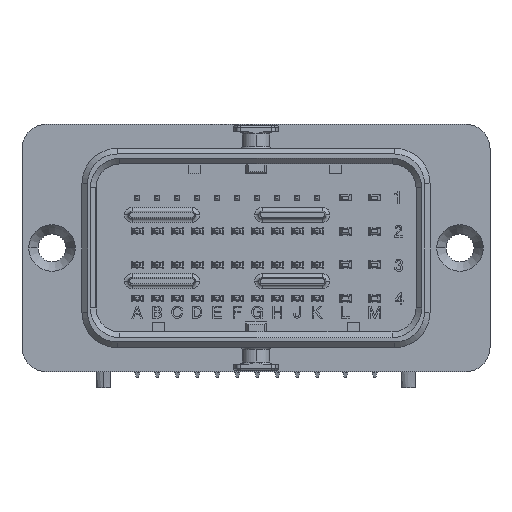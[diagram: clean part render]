
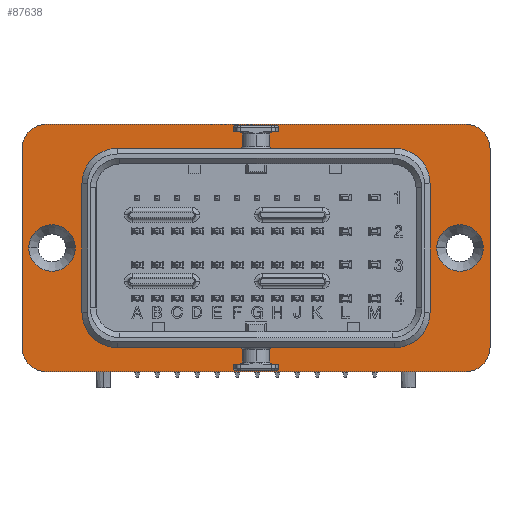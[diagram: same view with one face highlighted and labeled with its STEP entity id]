
A CAD part, left-side view. The second image highlights one B-rep face of the part: STEP entity #87638.
In plain terms, the highlighted planar face has unit normal (-1, 0, 0).
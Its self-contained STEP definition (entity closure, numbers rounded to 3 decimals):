
#85=DIRECTION('',(0.,1.,0.));
#86=VECTOR('',#85,52.5);
#87=CARTESIAN_POINT('',(22.9,57.996,-9.175));
#88=LINE('',#87,#86);
#101=DIRECTION('',(0.,0.,1.));
#102=VECTOR('',#101,24.9);
#103=CARTESIAN_POINT('',(22.9,113.496,-6.175));
#104=LINE('',#103,#102);
#125=DIRECTION('',(0.,0.,-1.));
#126=VECTOR('',#125,24.9);
#127=CARTESIAN_POINT('',(22.9,54.996,18.725));
#128=LINE('',#127,#126);
#137=CARTESIAN_POINT('',(22.9,110.496,-6.175));
#138=DIRECTION('',(-1.,0.,0.));
#139=DIRECTION('',(0.,1.,0.));
#140=AXIS2_PLACEMENT_3D('',#137,#138,#139);
#142=CARTESIAN_POINT('',(22.9,110.496,18.725));
#143=DIRECTION('',(-1.,0.,0.));
#144=DIRECTION('',(0.,0.,1.));
#145=AXIS2_PLACEMENT_3D('',#142,#143,#144);
#147=DIRECTION('',(0.,1.,0.));
#148=VECTOR('',#147,52.5);
#149=CARTESIAN_POINT('',(22.9,57.996,21.725));
#150=LINE('',#149,#148);
#151=CARTESIAN_POINT('',(22.9,57.996,18.725));
#152=DIRECTION('',(-1.,0.,0.));
#153=DIRECTION('',(0.,-1.,0.));
#154=AXIS2_PLACEMENT_3D('',#151,#152,#153);
#156=CARTESIAN_POINT('',(22.9,57.996,-6.175));
#157=DIRECTION('',(-1.,0.,0.));
#158=DIRECTION('',(0.,0.,-1.));
#159=AXIS2_PLACEMENT_3D('',#156,#157,#158);
#161=DIRECTION('',(0.,0.,-1.));
#162=VECTOR('',#161,16.1);
#163=CARTESIAN_POINT('',(22.9,62.496,14.325));
#164=LINE('',#163,#162);
#165=CARTESIAN_POINT('',(22.9,66.896,14.325));
#166=DIRECTION('',(1.,0.,0.));
#167=DIRECTION('',(0.,0.,1.));
#168=AXIS2_PLACEMENT_3D('',#165,#166,#167);
#170=CARTESIAN_POINT('',(22.9,101.596,14.325));
#171=DIRECTION('',(1.,0.,0.));
#172=DIRECTION('',(0.,1.,0.));
#173=AXIS2_PLACEMENT_3D('',#170,#171,#172);
#175=DIRECTION('',(0.,0.,1.));
#176=VECTOR('',#175,16.1);
#177=CARTESIAN_POINT('',(22.9,105.996,-1.775));
#178=LINE('',#177,#176);
#179=CARTESIAN_POINT('',(22.9,101.596,-1.775));
#180=DIRECTION('',(1.,0.,0.));
#181=DIRECTION('',(0.,0.,-1.));
#182=AXIS2_PLACEMENT_3D('',#179,#180,#181);
#184=DIRECTION('',(0.,1.,0.));
#185=VECTOR('',#184,34.7);
#186=CARTESIAN_POINT('',(22.9,66.896,-6.175));
#187=LINE('',#186,#185);
#188=CARTESIAN_POINT('',(22.9,66.896,-1.775));
#189=DIRECTION('',(1.,0.,0.));
#190=DIRECTION('',(0.,-1.,0.));
#191=AXIS2_PLACEMENT_3D('',#188,#189,#190);
#193=CARTESIAN_POINT('',(22.9,109.746,6.275));
#194=DIRECTION('',(1.,0.,0.));
#195=DIRECTION('',(0.,1.,0.));
#196=AXIS2_PLACEMENT_3D('',#193,#194,#195);
#198=CARTESIAN_POINT('',(22.9,109.746,6.275));
#199=DIRECTION('',(1.,0.,0.));
#200=DIRECTION('',(0.,-1.,0.));
#201=AXIS2_PLACEMENT_3D('',#198,#199,#200);
#203=CARTESIAN_POINT('',(22.9,58.746,6.275));
#204=DIRECTION('',(1.,0.,0.));
#205=DIRECTION('',(0.,1.,0.));
#206=AXIS2_PLACEMENT_3D('',#203,#204,#205);
#208=CARTESIAN_POINT('',(22.9,58.746,6.275));
#209=DIRECTION('',(1.,0.,0.));
#210=DIRECTION('',(0.,-1.,0.));
#211=AXIS2_PLACEMENT_3D('',#208,#209,#210);
#225=DIRECTION('',(0.,1.,0.));
#226=VECTOR('',#225,34.7);
#227=CARTESIAN_POINT('',(22.9,66.896,18.725));
#228=LINE('',#227,#226);
#67226=CARTESIAN_POINT('',(22.9,54.996,18.725));
#67227=VERTEX_POINT('',#67226);
#67228=CARTESIAN_POINT('',(22.9,57.996,21.725));
#67229=VERTEX_POINT('',#67228);
#67438=CARTESIAN_POINT('',(22.9,57.996,-9.175));
#67439=CARTESIAN_POINT('',(22.9,110.496,-9.175));
#67440=VERTEX_POINT('',#67438);
#67441=VERTEX_POINT('',#67439);
#67442=CARTESIAN_POINT('',(22.9,54.996,-6.175));
#67443=VERTEX_POINT('',#67442);
#67444=CARTESIAN_POINT('',(22.9,110.496,21.725));
#67445=VERTEX_POINT('',#67444);
#67450=CARTESIAN_POINT('',(22.9,66.896,-6.175));
#67451=VERTEX_POINT('',#67450);
#67452=CARTESIAN_POINT('',(22.9,101.596,-6.175));
#67453=VERTEX_POINT('',#67452);
#67458=CARTESIAN_POINT('',(22.9,113.496,-6.175));
#67459=VERTEX_POINT('',#67458);
#67460=CARTESIAN_POINT('',(22.9,113.496,18.725));
#67461=VERTEX_POINT('',#67460);
#67462=CARTESIAN_POINT('',(22.9,66.896,18.725));
#67463=CARTESIAN_POINT('',(22.9,62.496,14.325));
#67464=VERTEX_POINT('',#67462);
#67465=VERTEX_POINT('',#67463);
#67466=CARTESIAN_POINT('',(22.9,101.596,18.725));
#67467=VERTEX_POINT('',#67466);
#67468=CARTESIAN_POINT('',(22.9,105.996,14.325));
#67469=VERTEX_POINT('',#67468);
#67470=CARTESIAN_POINT('',(22.9,105.996,-1.775));
#67471=VERTEX_POINT('',#67470);
#67472=CARTESIAN_POINT('',(22.9,62.496,-1.775));
#67473=VERTEX_POINT('',#67472);
#67474=CARTESIAN_POINT('',(22.9,106.846,6.275));
#67475=CARTESIAN_POINT('',(22.9,112.646,6.275));
#67476=VERTEX_POINT('',#67474);
#67477=VERTEX_POINT('',#67475);
#67478=CARTESIAN_POINT('',(22.9,55.846,6.275));
#67479=CARTESIAN_POINT('',(22.9,61.646,6.275));
#67480=VERTEX_POINT('',#67478);
#67481=VERTEX_POINT('',#67479);
#87593=CARTESIAN_POINT('',(22.9,139.37,23.201));
#87594=DIRECTION('',(-1.,0.,0.));
#87595=DIRECTION('',(0.,-1.,0.));
#87596=AXIS2_PLACEMENT_3D('',#87593,#87594,#87595);
#87597=PLANE('',#87596);
#87598=ORIENTED_EDGE('',*,*,#87488,.T.);
#87599=ORIENTED_EDGE('',*,*,#87505,.F.);
#87600=ORIENTED_EDGE('',*,*,#87517,.T.);
#87601=ORIENTED_EDGE('',*,*,#87533,.F.);
#87602=ORIENTED_EDGE('',*,*,#87545,.F.);
#87603=ORIENTED_EDGE('',*,*,#87561,.F.);
#87604=ORIENTED_EDGE('',*,*,#87573,.T.);
#87605=ORIENTED_EDGE('',*,*,#87588,.F.);
#87606=EDGE_LOOP('',(#87598,#87599,#87600,#87601,#87602,#87603,#87604,#87605));
#87607=FACE_OUTER_BOUND('',#87606,.F.);
#87609=ORIENTED_EDGE('',*,*,#87608,.F.);
#87611=ORIENTED_EDGE('',*,*,#87610,.F.);
#87613=ORIENTED_EDGE('',*,*,#87612,.T.);
#87615=ORIENTED_EDGE('',*,*,#87614,.F.);
#87617=ORIENTED_EDGE('',*,*,#87616,.F.);
#87619=ORIENTED_EDGE('',*,*,#87618,.F.);
#87621=ORIENTED_EDGE('',*,*,#87620,.F.);
#87623=ORIENTED_EDGE('',*,*,#87622,.F.);
#87624=EDGE_LOOP('',(#87609,#87611,#87613,#87615,#87617,#87619,#87621,#87623));
#87625=FACE_BOUND('',#87624,.F.);
#87627=ORIENTED_EDGE('',*,*,#87626,.F.);
#87629=ORIENTED_EDGE('',*,*,#87628,.F.);
#87630=EDGE_LOOP('',(#87627,#87629));
#87631=FACE_BOUND('',#87630,.F.);
#87633=ORIENTED_EDGE('',*,*,#87632,.F.);
#87635=ORIENTED_EDGE('',*,*,#87634,.F.);
#87636=EDGE_LOOP('',(#87633,#87635));
#87637=FACE_BOUND('',#87636,.F.);
#87638=ADVANCED_FACE('',(#87607,#87625,#87631,#87637),#87597,.T.);
#141=CIRCLE('',#140,3.);
#146=CIRCLE('',#145,3.);
#155=CIRCLE('',#154,3.);
#160=CIRCLE('',#159,3.);
#169=CIRCLE('',#168,4.4);
#174=CIRCLE('',#173,4.4);
#183=CIRCLE('',#182,4.4);
#192=CIRCLE('',#191,4.4);
#197=CIRCLE('',#196,2.9);
#202=CIRCLE('',#201,2.9);
#207=CIRCLE('',#206,2.9);
#212=CIRCLE('',#211,2.9);
#87488=EDGE_CURVE('',#67440,#67441,#88,.T.);
#87505=EDGE_CURVE('',#67459,#67441,#141,.T.);
#87517=EDGE_CURVE('',#67459,#67461,#104,.T.);
#87533=EDGE_CURVE('',#67445,#67461,#146,.T.);
#87545=EDGE_CURVE('',#67229,#67445,#150,.T.);
#87561=EDGE_CURVE('',#67227,#67229,#155,.T.);
#87573=EDGE_CURVE('',#67227,#67443,#128,.T.);
#87588=EDGE_CURVE('',#67440,#67443,#160,.T.);
#87608=EDGE_CURVE('',#67465,#67473,#164,.T.);
#87610=EDGE_CURVE('',#67464,#67465,#169,.T.);
#87612=EDGE_CURVE('',#67464,#67467,#228,.T.);
#87614=EDGE_CURVE('',#67469,#67467,#174,.T.);
#87616=EDGE_CURVE('',#67471,#67469,#178,.T.);
#87618=EDGE_CURVE('',#67453,#67471,#183,.T.);
#87620=EDGE_CURVE('',#67451,#67453,#187,.T.);
#87622=EDGE_CURVE('',#67473,#67451,#192,.T.);
#87626=EDGE_CURVE('',#67477,#67476,#197,.T.);
#87628=EDGE_CURVE('',#67476,#67477,#202,.T.);
#87632=EDGE_CURVE('',#67481,#67480,#207,.T.);
#87634=EDGE_CURVE('',#67480,#67481,#212,.T.);
